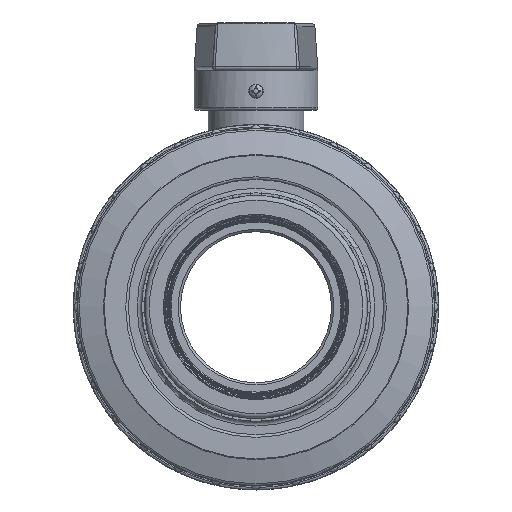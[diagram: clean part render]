
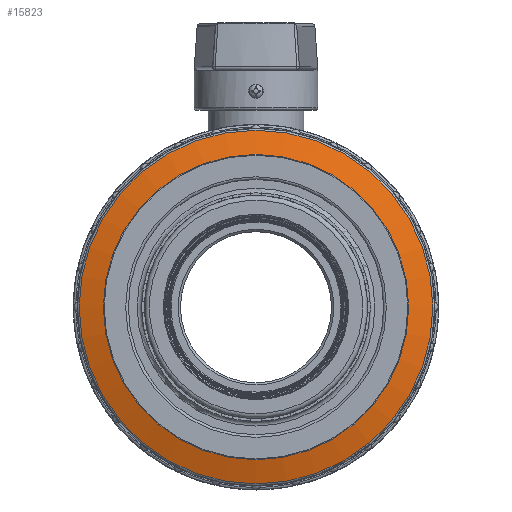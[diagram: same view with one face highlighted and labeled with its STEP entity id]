
A CAD part, top view. The second image highlights one B-rep face of the part: STEP entity #15823.
In plain terms, the highlighted conical face has half-angle 72.943 degrees and reference radius 93.943 mm.
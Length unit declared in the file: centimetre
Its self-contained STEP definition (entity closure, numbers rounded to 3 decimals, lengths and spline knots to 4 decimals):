
#3913=CONICAL_SURFACE('',#16876,9.3943,1.273);
#5349=VERTEX_POINT('',#110370);
#5350=VERTEX_POINT('',#110373);
#6336=CIRCLE('',#16875,7.3207);
#6337=CIRCLE('',#16877,8.4828);
#7740=EDGE_CURVE('',#5349,#5349,#6336,.T.);
#7741=EDGE_CURVE('',#5350,#5350,#6337,.T.);
#11165=ORIENTED_EDGE('',*,*,#7741,.F.);
#11166=ORIENTED_EDGE('',*,*,#7740,.F.);
#13930=EDGE_LOOP('',(#11165));
#13931=EDGE_LOOP('',(#11166));
#14923=FACE_BOUND('',#13930,.T.);
#14924=FACE_BOUND('',#13931,.T.);
#15823=ADVANCED_FACE('',(#14923,#14924),#3913,.T.);
#16875=AXIS2_PLACEMENT_3D('',#110369,#19073,#19074);
#16876=AXIS2_PLACEMENT_3D('',#110371,#19075,#19076);
#16877=AXIS2_PLACEMENT_3D('',#110372,#19077,#19078);
#19073=DIRECTION('',(0.,0.,1.));
#19074=DIRECTION('',(0.,-7.321,0.));
#19075=DIRECTION('',(0.,0.,-1.));
#19076=DIRECTION('',(0.,9.394,0.));
#19077=DIRECTION('',(0.,0.,-1.));
#19078=DIRECTION('',(8.483,0.,0.));
#110369=CARTESIAN_POINT('',(0.,0.,4.5918));
#110370=CARTESIAN_POINT('',(0.,7.3207,4.5918));
#110371=CARTESIAN_POINT('',(0.,0.,3.9556));
#110372=CARTESIAN_POINT('',(0.,0.,4.2353));
#110373=CARTESIAN_POINT('',(-8.4828,0.,4.2353));
